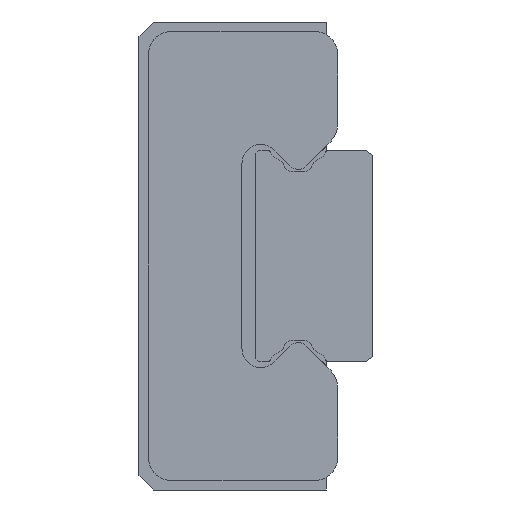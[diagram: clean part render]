
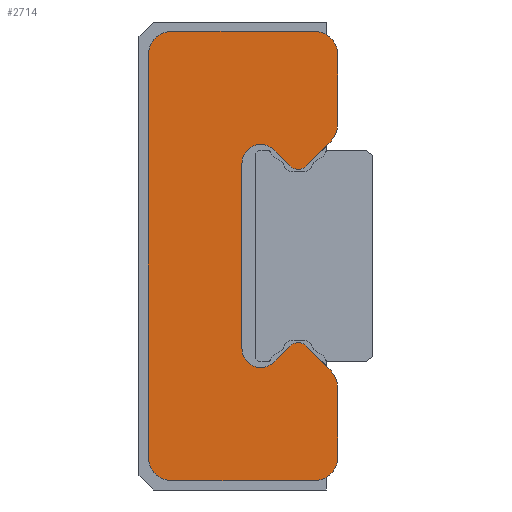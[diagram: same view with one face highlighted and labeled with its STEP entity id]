
A CAD part, left-side view. The second image highlights one B-rep face of the part: STEP entity #2714.
In plain terms, the highlighted planar face has unit normal (-1, 0, 0).
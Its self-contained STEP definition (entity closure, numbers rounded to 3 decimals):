
#121=PLANE('',#3012);
#340=LINE('',#4533,#586);
#343=LINE('',#4541,#589);
#346=LINE('',#4549,#592);
#349=LINE('',#4557,#595);
#352=LINE('',#4565,#598);
#355=LINE('',#4573,#601);
#358=LINE('',#4581,#604);
#361=LINE('',#4589,#607);
#364=LINE('',#4597,#610);
#367=LINE('',#4605,#613);
#586=VECTOR('',#3717,1000.);
#589=VECTOR('',#3726,1000.);
#592=VECTOR('',#3735,1000.);
#595=VECTOR('',#3744,1000.);
#598=VECTOR('',#3753,1000.);
#601=VECTOR('',#3762,1000.);
#604=VECTOR('',#3771,1000.);
#607=VECTOR('',#3780,1000.);
#610=VECTOR('',#3789,1000.);
#613=VECTOR('',#3798,1000.);
#1324=ORIENTED_EDGE('',*,*,#1699,.F.);
#1325=ORIENTED_EDGE('',*,*,#1737,.F.);
#1326=ORIENTED_EDGE('',*,*,#1735,.F.);
#1327=ORIENTED_EDGE('',*,*,#1733,.F.);
#1328=ORIENTED_EDGE('',*,*,#1731,.F.);
#1329=ORIENTED_EDGE('',*,*,#1729,.F.);
#1330=ORIENTED_EDGE('',*,*,#1727,.F.);
#1331=ORIENTED_EDGE('',*,*,#1725,.F.);
#1332=ORIENTED_EDGE('',*,*,#1723,.F.);
#1333=ORIENTED_EDGE('',*,*,#1721,.F.);
#1334=ORIENTED_EDGE('',*,*,#1719,.T.);
#1335=ORIENTED_EDGE('',*,*,#1717,.F.);
#1336=ORIENTED_EDGE('',*,*,#1715,.T.);
#1337=ORIENTED_EDGE('',*,*,#1713,.F.);
#1338=ORIENTED_EDGE('',*,*,#1711,.F.);
#1339=ORIENTED_EDGE('',*,*,#1709,.F.);
#1340=ORIENTED_EDGE('',*,*,#1707,.F.);
#1341=ORIENTED_EDGE('',*,*,#1705,.F.);
#1342=ORIENTED_EDGE('',*,*,#1703,.F.);
#1343=ORIENTED_EDGE('',*,*,#1701,.F.);
#1699=EDGE_CURVE('',#1978,#1979,#2124,.T.);
#1701=EDGE_CURVE('',#1979,#1980,#340,.T.);
#1703=EDGE_CURVE('',#1980,#1981,#2125,.T.);
#1705=EDGE_CURVE('',#1981,#1982,#343,.T.);
#1707=EDGE_CURVE('',#1982,#1983,#2126,.T.);
#1709=EDGE_CURVE('',#1983,#1984,#346,.T.);
#1711=EDGE_CURVE('',#1984,#1985,#2127,.T.);
#1713=EDGE_CURVE('',#1985,#1986,#349,.T.);
#1715=EDGE_CURVE('',#1987,#1986,#2128,.T.);
#1717=EDGE_CURVE('',#1987,#1988,#352,.T.);
#1719=EDGE_CURVE('',#1989,#1988,#2129,.T.);
#1721=EDGE_CURVE('',#1989,#1990,#355,.T.);
#1723=EDGE_CURVE('',#1990,#1991,#2130,.T.);
#1725=EDGE_CURVE('',#1991,#1992,#358,.T.);
#1727=EDGE_CURVE('',#1992,#1993,#2131,.T.);
#1729=EDGE_CURVE('',#1993,#1994,#361,.T.);
#1731=EDGE_CURVE('',#1994,#1995,#2132,.T.);
#1733=EDGE_CURVE('',#1995,#1996,#364,.T.);
#1735=EDGE_CURVE('',#1996,#1997,#2133,.T.);
#1737=EDGE_CURVE('',#1997,#1978,#367,.T.);
#1978=VERTEX_POINT('',#4528);
#1979=VERTEX_POINT('',#4530);
#1980=VERTEX_POINT('',#4534);
#1981=VERTEX_POINT('',#4538);
#1982=VERTEX_POINT('',#4542);
#1983=VERTEX_POINT('',#4546);
#1984=VERTEX_POINT('',#4550);
#1985=VERTEX_POINT('',#4554);
#1986=VERTEX_POINT('',#4558);
#1987=VERTEX_POINT('',#4562);
#1988=VERTEX_POINT('',#4566);
#1989=VERTEX_POINT('',#4570);
#1990=VERTEX_POINT('',#4574);
#1991=VERTEX_POINT('',#4578);
#1992=VERTEX_POINT('',#4582);
#1993=VERTEX_POINT('',#4586);
#1994=VERTEX_POINT('',#4590);
#1995=VERTEX_POINT('',#4594);
#1996=VERTEX_POINT('',#4598);
#1997=VERTEX_POINT('',#4602);
#2124=CIRCLE('',#2983,0.999);
#2125=CIRCLE('',#2986,1.);
#2126=CIRCLE('',#2989,1.167);
#2127=CIRCLE('',#2992,0.5);
#2128=CIRCLE('',#2995,0.8);
#2129=CIRCLE('',#2998,0.8);
#2130=CIRCLE('',#3001,0.5);
#2131=CIRCLE('',#3004,1.167);
#2132=CIRCLE('',#3007,1.);
#2133=CIRCLE('',#3010,0.998);
#2303=EDGE_LOOP('',(#1324,#1325,#1326,#1327,#1328,#1329,#1330,#1331,#1332,
#1333,#1334,#1335,#1336,#1337,#1338,#1339,#1340,#1341,#1342,#1343));
#2489=FACE_BOUND('',#2303,.T.);
#2714=ADVANCED_FACE('',(#2489),#121,.F.);
#2983=AXIS2_PLACEMENT_3D('',#4529,#3712,#3713);
#2986=AXIS2_PLACEMENT_3D('',#4537,#3721,#3722);
#2989=AXIS2_PLACEMENT_3D('',#4545,#3730,#3731);
#2992=AXIS2_PLACEMENT_3D('',#4553,#3739,#3740);
#2995=AXIS2_PLACEMENT_3D('',#4561,#3748,#3749);
#2998=AXIS2_PLACEMENT_3D('',#4569,#3757,#3758);
#3001=AXIS2_PLACEMENT_3D('',#4577,#3766,#3767);
#3004=AXIS2_PLACEMENT_3D('',#4585,#3775,#3776);
#3007=AXIS2_PLACEMENT_3D('',#4593,#3784,#3785);
#3010=AXIS2_PLACEMENT_3D('',#4601,#3793,#3794);
#3012=AXIS2_PLACEMENT_3D('',#4606,#3799,#3800);
#3712=DIRECTION('',(1.,0.,0.));
#3713=DIRECTION('',(0.,0.,-1.));
#3717=DIRECTION('',(0.,-1.,0.));
#3721=DIRECTION('',(1.,0.,0.));
#3722=DIRECTION('',(0.,0.,-1.));
#3726=DIRECTION('',(0.,0.,-1.));
#3730=DIRECTION('',(1.,0.,0.));
#3731=DIRECTION('',(0.,0.,-1.));
#3735=DIRECTION('',(0.,0.707,-0.707));
#3739=DIRECTION('',(1.,0.,0.));
#3740=DIRECTION('',(0.,0.,-1.));
#3744=DIRECTION('',(0.,0.707,0.707));
#3748=DIRECTION('',(1.,0.,0.));
#3749=DIRECTION('',(0.,0.,-1.));
#3753=DIRECTION('',(0.,0.,-1.));
#3757=DIRECTION('',(1.,0.,0.));
#3758=DIRECTION('',(0.,0.,-1.));
#3762=DIRECTION('',(0.,-0.707,0.707));
#3766=DIRECTION('',(1.,0.,0.));
#3767=DIRECTION('',(0.,0.,-1.));
#3771=DIRECTION('',(0.,-0.707,-0.707));
#3775=DIRECTION('',(1.,0.,0.));
#3776=DIRECTION('',(0.,0.,-1.));
#3780=DIRECTION('',(0.,0.,-1.));
#3784=DIRECTION('',(1.,0.,0.));
#3785=DIRECTION('',(0.,0.,-1.));
#3789=DIRECTION('',(0.,1.,0.));
#3793=DIRECTION('',(1.,0.,0.));
#3794=DIRECTION('',(0.,0.,-1.));
#3798=DIRECTION('',(0.,0.,1.));
#3799=DIRECTION('',(1.,0.,0.));
#3800=DIRECTION('',(0.,0.,-1.));
#4528=CARTESIAN_POINT('',(-18.9,-0.4,8.601));
#4529=CARTESIAN_POINT('',(-18.9,-1.399,8.601));
#4530=CARTESIAN_POINT('',(-18.9,-1.399,9.6));
#4533=CARTESIAN_POINT('',(-18.9,-1.399,9.6));
#4534=CARTESIAN_POINT('',(-18.9,-7.5,9.6));
#4537=CARTESIAN_POINT('',(-18.9,-7.5,8.6));
#4538=CARTESIAN_POINT('',(-18.9,-8.5,8.6));
#4541=CARTESIAN_POINT('',(-18.9,-8.5,8.6));
#4542=CARTESIAN_POINT('',(-18.9,-8.5,5.614));
#4545=CARTESIAN_POINT('',(-18.9,-7.335,5.683));
#4546=CARTESIAN_POINT('',(-18.9,-8.207,4.907));
#4549=CARTESIAN_POINT('',(-18.9,-8.207,4.907));
#4550=CARTESIAN_POINT('',(-18.9,-7.153,3.853));
#4553=CARTESIAN_POINT('',(-18.9,-6.8,4.206));
#4554=CARTESIAN_POINT('',(-18.9,-6.447,3.853));
#4557=CARTESIAN_POINT('',(-18.9,-6.447,3.853));
#4558=CARTESIAN_POINT('',(-18.9,-5.766,4.534));
#4561=CARTESIAN_POINT('',(-18.9,-5.2,3.968));
#4562=CARTESIAN_POINT('',(-18.9,-4.4,3.968));
#4565=CARTESIAN_POINT('',(-18.9,-4.4,3.968));
#4566=CARTESIAN_POINT('',(-18.9,-4.4,-3.968));
#4569=CARTESIAN_POINT('',(-18.9,-5.2,-3.968));
#4570=CARTESIAN_POINT('',(-18.9,-5.766,-4.534));
#4573=CARTESIAN_POINT('',(-18.9,-5.766,-4.534));
#4574=CARTESIAN_POINT('',(-18.9,-6.447,-3.853));
#4577=CARTESIAN_POINT('',(-18.9,-6.8,-4.206));
#4578=CARTESIAN_POINT('',(-18.9,-7.153,-3.853));
#4581=CARTESIAN_POINT('',(-18.9,-7.153,-3.853));
#4582=CARTESIAN_POINT('',(-18.9,-8.207,-4.907));
#4585=CARTESIAN_POINT('',(-18.9,-7.335,-5.683));
#4586=CARTESIAN_POINT('',(-18.9,-8.5,-5.614));
#4589=CARTESIAN_POINT('',(-18.9,-8.5,-5.614));
#4590=CARTESIAN_POINT('',(-18.9,-8.5,-8.6));
#4593=CARTESIAN_POINT('',(-18.9,-7.5,-8.6));
#4594=CARTESIAN_POINT('',(-18.9,-7.5,-9.6));
#4597=CARTESIAN_POINT('',(-18.9,-7.5,-9.6));
#4598=CARTESIAN_POINT('',(-18.9,-1.398,-9.6));
#4601=CARTESIAN_POINT('',(-18.9,-1.398,-8.602));
#4602=CARTESIAN_POINT('',(-18.9,-0.4,-8.6));
#4605=CARTESIAN_POINT('',(-18.9,-0.4,-8.6));
#4606=CARTESIAN_POINT('',(-18.9,-1.399,8.601));
